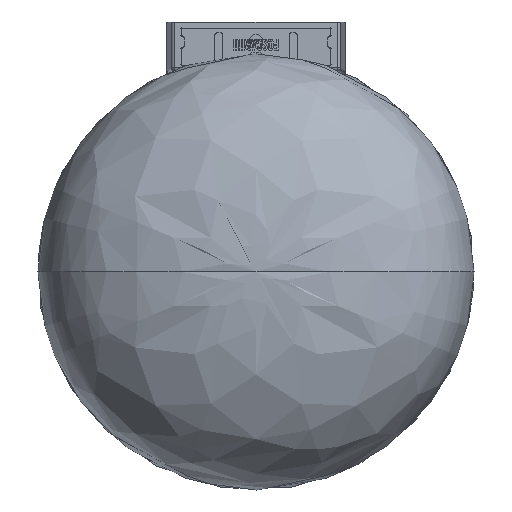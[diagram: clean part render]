
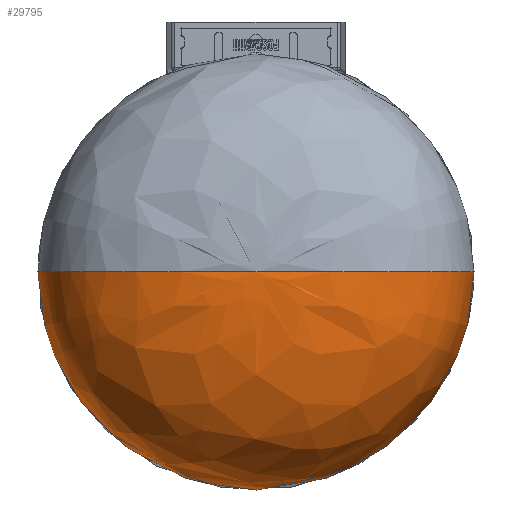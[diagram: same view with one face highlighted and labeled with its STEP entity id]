
A CAD part, front view. The second image highlights one B-rep face of the part: STEP entity #29795.
In plain terms, the highlighted free-form (B-spline) face has degree [3, 3] with [8, 4] control points.
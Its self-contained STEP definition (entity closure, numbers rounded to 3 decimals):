
#116 = VERTEX_POINT ( 'NONE', #7380 ) ;
#144 = CARTESIAN_POINT ( 'NONE',  ( 36.959, -322.826, 23.807 ) ) ;
#1010 = CARTESIAN_POINT ( 'NONE',  ( -10.403, 8.642, 23.807 ) ) ;
#2757 = CARTESIAN_POINT ( 'NONE',  ( 12.659, -6.223, -114.605 ) ) ;
#3924 = CARTESIAN_POINT ( 'NONE',  ( 49.169, -82.281, 23.807 ) ) ;
#4119 =( BOUNDED_SURFACE ( )  B_SPLINE_SURFACE ( 3, 3, ( 
 ( #12150, #29832, #30709, #48227 ),
 ( #25715, #25417, #30141, #43794 ),
 ( #48793, #39338, #57427, #53528 ),
 ( #34853, #8302, #26269, #44382 ),
 ( #3924, #21879, #39936, #13020 ),
 ( #43185, #2757, #14457, #49086 ),
 ( #53825, #41032, #13311, #17740 ),
 ( #9457, #31293, #31563, #36907 ) ),
 .UNSPECIFIED., .F., .F., .F. ) 
 B_SPLINE_SURFACE_WITH_KNOTS ( ( 4, 1, 1, 1, 1, 4 ),
 ( 4, 4 ),
 ( 0.125, 0.303, 0.379, 0.826, 0.893, 1. ),
 ( 0., 1. ),
 .UNSPECIFIED. ) 
 GEOMETRIC_REPRESENTATION_ITEM ( )  RATIONAL_B_SPLINE_SURFACE ( (
 ( 1., 0.333, 0.333, 1.),
 ( 1., 0.333, 0.333, 1.),
 ( 1., 0.333, 0.333, 1.),
 ( 1., 0.333, 0.333, 1.),
 ( 1., 0.333, 0.333, 1.),
 ( 1., 0.333, 0.333, 1.),
 ( 1., 0.333, 0.333, 1.),
 ( 1., 0.333, 0.333, 1.) ) ) 
 REPRESENTATION_ITEM ( '' )  SURFACE ( )  );
#6031 = B_SPLINE_CURVE_WITH_KNOTS ( 'NONE', 3,
 ( #46292, #23803, #28761, #19380, #14940, #32903, #37673, #51288 ),
 .UNSPECIFIED., .F., .F.,
 ( 4, 1, 1, 1, 1, 4 ),
 ( 0.125, 0.303, 0.379, 0.826, 0.893, 1. ),
 .UNSPECIFIED. ) ;
#7380 = CARTESIAN_POINT ( 'NONE',  ( -10.403, 8.642, 23.807 ) ) ;
#8302 = CARTESIAN_POINT ( 'NONE',  ( 59.454, -152.936, -208.194 ) ) ;
#9457 = CARTESIAN_POINT ( 'NONE',  ( -10.403, 8.642, 23.807 ) ) ;
#11541 = CARTESIAN_POINT ( 'NONE',  ( -56.547, 8.642, 23.807 ) ) ;
#11940 = VERTEX_POINT ( 'NONE', #15801 ) ;
#12150 = CARTESIAN_POINT ( 'NONE',  ( -56.547, -322.826, 23.807 ) ) ;
#13020 = CARTESIAN_POINT ( 'NONE',  ( -162.262, -82.281, 23.807 ) ) ;
#13311 = CARTESIAN_POINT ( 'NONE',  ( -110.648, 4.883, -84.395 ) ) ;
#13672 = CARTESIAN_POINT ( 'NONE',  ( -2.446, 4.883, 23.807 ) ) ;
#13963 = CARTESIAN_POINT ( 'NONE',  ( 49.169, -82.281, 23.807 ) ) ;
#14163 = EDGE_CURVE ( 'NONE', #116, #27534, #33842, .T. ) ;
#14457 = CARTESIAN_POINT ( 'NONE',  ( -125.753, -6.223, -114.605 ) ) ;
#14940 = CARTESIAN_POINT ( 'NONE',  ( -162.262, -82.281, 23.807 ) ) ;
#15223 = EDGE_LOOP ( 'NONE', ( #23891, #30306, #17211 ) ) ;
#15801 = CARTESIAN_POINT ( 'NONE',  ( -56.547, -322.826, 23.807 ) ) ;
#17211 = ORIENTED_EDGE ( 'NONE', *, *, #14163, .F. ) ;
#17740 = CARTESIAN_POINT ( 'NONE',  ( -110.648, 4.883, 23.807 ) ) ;
#18112 = CARTESIAN_POINT ( 'NONE',  ( 68.916, -269.126, 23.807 ) ) ;
#19380 = CARTESIAN_POINT ( 'NONE',  ( -172.547, -152.936, 23.807 ) ) ;
#21879 = CARTESIAN_POINT ( 'NONE',  ( 49.169, -82.281, -187.624 ) ) ;
#22531 = CARTESIAN_POINT ( 'NONE',  ( 59.454, -152.936, 23.807 ) ) ;
#23803 = CARTESIAN_POINT ( 'NONE',  ( -150.053, -322.826, 23.807 ) ) ;
#23891 = ORIENTED_EDGE ( 'NONE', *, *, #55088, .F. ) ;
#25417 = CARTESIAN_POINT ( 'NONE',  ( 36.959, -322.826, -163.205 ) ) ;
#25715 = CARTESIAN_POINT ( 'NONE',  ( 36.959, -322.826, 23.807 ) ) ;
#25996 = FACE_OUTER_BOUND ( 'NONE', #15223, .T. ) ;
#26269 = CARTESIAN_POINT ( 'NONE',  ( -172.547, -152.936, -208.194 ) ) ;
#27534 = VERTEX_POINT ( 'NONE', #49798 ) ;
#27711 = B_SPLINE_CURVE_WITH_KNOTS ( 'NONE', 3,
 ( #49447, #144, #18112, #22531, #13963, #36382, #13672, #1010 ),
 .UNSPECIFIED., .F., .F.,
 ( 4, 1, 1, 1, 1, 4 ),
 ( 0.125, 0.303, 0.379, 0.826, 0.893, 1. ),
 .UNSPECIFIED. ) ;
#28761 = CARTESIAN_POINT ( 'NONE',  ( -182.009, -269.126, 23.807 ) ) ;
#29795 = ADVANCED_FACE ( 'NONE', ( #25996 ), #4119, .F. ) ;
#29832 = CARTESIAN_POINT ( 'NONE',  ( -56.547, -322.826, 23.807 ) ) ;
#30105 = DIRECTION ( 'NONE',  ( 0., 1., 0. ) ) ;
#30141 = CARTESIAN_POINT ( 'NONE',  ( -150.053, -322.826, -163.205 ) ) ;
#30306 = ORIENTED_EDGE ( 'NONE', *, *, #43497, .T. ) ;
#30709 = CARTESIAN_POINT ( 'NONE',  ( -56.547, -322.826, 23.807 ) ) ;
#31293 = CARTESIAN_POINT ( 'NONE',  ( -10.403, 8.642, -68.481 ) ) ;
#31563 = CARTESIAN_POINT ( 'NONE',  ( -102.691, 8.642, -68.481 ) ) ;
#32903 = CARTESIAN_POINT ( 'NONE',  ( -125.753, -6.223, 23.807 ) ) ;
#33842 = CIRCLE ( 'NONE', #38607, 46.144 ) ;
#34853 = CARTESIAN_POINT ( 'NONE',  ( 59.454, -152.936, 23.807 ) ) ;
#36382 = CARTESIAN_POINT ( 'NONE',  ( 12.659, -6.223, 23.807 ) ) ;
#36907 = CARTESIAN_POINT ( 'NONE',  ( -102.691, 8.642, 23.807 ) ) ;
#37673 = CARTESIAN_POINT ( 'NONE',  ( -110.648, 4.883, 23.807 ) ) ;
#38607 = AXIS2_PLACEMENT_3D ( 'NONE', #11541, #30105, #47297 ) ;
#39338 = CARTESIAN_POINT ( 'NONE',  ( 68.916, -269.126, -227.118 ) ) ;
#39936 = CARTESIAN_POINT ( 'NONE',  ( -162.262, -82.281, -187.624 ) ) ;
#41032 = CARTESIAN_POINT ( 'NONE',  ( -2.446, 4.883, -84.395 ) ) ;
#43185 = CARTESIAN_POINT ( 'NONE',  ( 12.659, -6.223, 23.807 ) ) ;
#43497 = EDGE_CURVE ( 'NONE', #11940, #27534, #6031, .T. ) ;
#43794 = CARTESIAN_POINT ( 'NONE',  ( -150.053, -322.826, 23.807 ) ) ;
#44382 = CARTESIAN_POINT ( 'NONE',  ( -172.547, -152.936, 23.807 ) ) ;
#46292 = CARTESIAN_POINT ( 'NONE',  ( -56.547, -322.826, 23.807 ) ) ;
#47297 = DIRECTION ( 'NONE',  ( -1., 0., 0. ) ) ;
#48227 = CARTESIAN_POINT ( 'NONE',  ( -56.547, -322.826, 23.807 ) ) ;
#48793 = CARTESIAN_POINT ( 'NONE',  ( 68.916, -269.126, 23.807 ) ) ;
#49086 = CARTESIAN_POINT ( 'NONE',  ( -125.753, -6.223, 23.807 ) ) ;
#49447 = CARTESIAN_POINT ( 'NONE',  ( -56.547, -322.826, 23.807 ) ) ;
#49798 = CARTESIAN_POINT ( 'NONE',  ( -102.691, 8.642, 23.807 ) ) ;
#51288 = CARTESIAN_POINT ( 'NONE',  ( -102.691, 8.642, 23.807 ) ) ;
#53528 = CARTESIAN_POINT ( 'NONE',  ( -182.009, -269.126, 23.807 ) ) ;
#53825 = CARTESIAN_POINT ( 'NONE',  ( -2.446, 4.883, 23.807 ) ) ;
#55088 = EDGE_CURVE ( 'NONE', #11940, #116, #27711, .T. ) ;
#57427 = CARTESIAN_POINT ( 'NONE',  ( -182.009, -269.126, -227.118 ) ) ;
